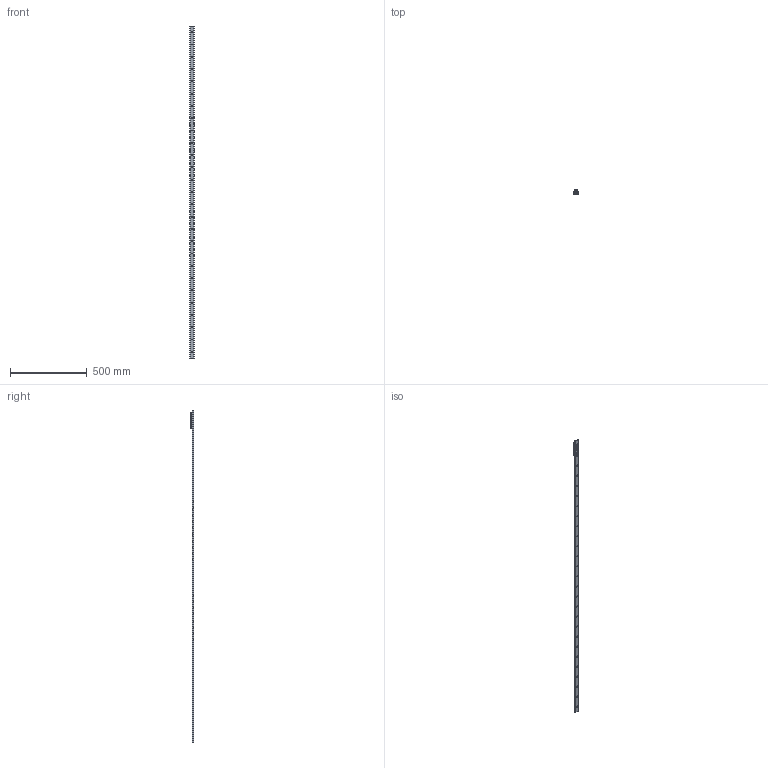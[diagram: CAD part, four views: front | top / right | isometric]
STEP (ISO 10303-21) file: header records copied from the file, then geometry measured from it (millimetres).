
FILE_DESCRIPTION( ( 'STEP AP214' ), '1' );
FILE_NAME( 'p:/temp/worker_24/temp/exporttempdir_3672_40_qnoVQ/format_2/TGV-02160_1_RV28G-3.stp', '2020-11-20T16:38:06', ( 'License CC BY-ND 4.0' ), ( 'CADENAS' ), ' ', 'PARTsolutions', ' ' );
FILE_SCHEMA( ( 'AUTOMOTIVE_DESIGN { 1 0 10303 214 1 1 1 1 }' ) );
Length unit declared in the file: millimetre
Products named in the file (6): TGV-02160/1/RV28G-3; _TGV28-2160-(3-1); _RV28G-3-slider; _RGNV28R; _RGAV28R; _WR28G-01
Assembly tree (7 placements, depth 2):
  TGV-02160/1/RV28G-3
    _TGV28-2160-(3-1)
    _RV28G-3-slider
    _RGNV28R  x2
    _RGAV28R
    _WR28G-01  x2
Bounding box: 28 x 24 x 2160 mm (x, y, z)
Volume: 348351.9 mm3; surface area: 223270.5 mm2
Topology: 7 solids, 7 shells, 1066 faces, 2780 edges, 1810 vertices
Faces by surface type: plane 657, cylinder 307, cone 67, bspline 26, torus 9
Full cylindrical faces by diameter (mm): 1.27 x4, 2 x2, 2.5 x6, 4 x4, 4.134 x4, 4.2 x3, 5 x3, 5.5 x3, 5.75 x27, 7 x5, 7.5 x1, 8 x6, 10.8 x3, 17 x3, 20.75 x6
Entity records: 25941 total; most frequent: CARTESIAN_POINT 4091, DIRECTION 3470, ORIENTED_EDGE 3156, EDGE_CURVE 1578, AXIS2_PLACEMENT_3D 1340, VERTEX_POINT 1110, EDGE_LOOP 953, LINE 790
